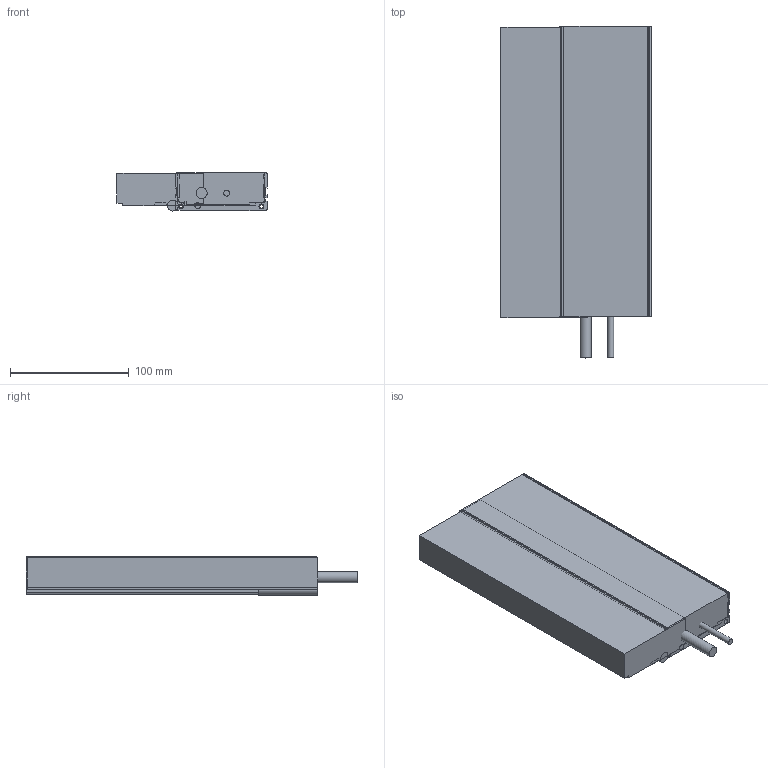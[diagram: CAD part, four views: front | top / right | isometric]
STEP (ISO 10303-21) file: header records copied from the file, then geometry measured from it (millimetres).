
FILE_DESCRIPTION( ( 'Unknown' ), '1' );
FILE_NAME( 'ML1112_01.stp', 'Unknown', ( 'Unknown' ), ( 'Unknown' ), 'XStep 1.0', 'Unknown', ' ' );
FILE_SCHEMA( ( 'CONFIG_CONTROL_DESIGN' ) );
Length unit declared in the file: millimetre
Products named in the file (9): Assem1; 4022 362 73244; Kabels; 4022 362 72863; GietharsTL12
Bounding box: 126.18 x 279.01 x 32.07 mm (x, y, z)
Surface area: 292651 mm2
Topology: 16 solids, 16 shells, 968 faces, 2816 edges, 1872 vertices
Faces by surface type: plane 768, cylinder 200
Full cylindrical faces by diameter (mm): 2.5 x8, 4.2 x20, 5 x6, 9.2 x2
Entity records: 16133 total; most frequent: CARTESIAN_POINT 2789, ORIENTED_EDGE 2748, DIRECTION 2588, EDGE_CURVE 1374, LINE 1146, VECTOR 1146, VERTEX_POINT 922, AXIS2_PLACEMENT_3D 721
